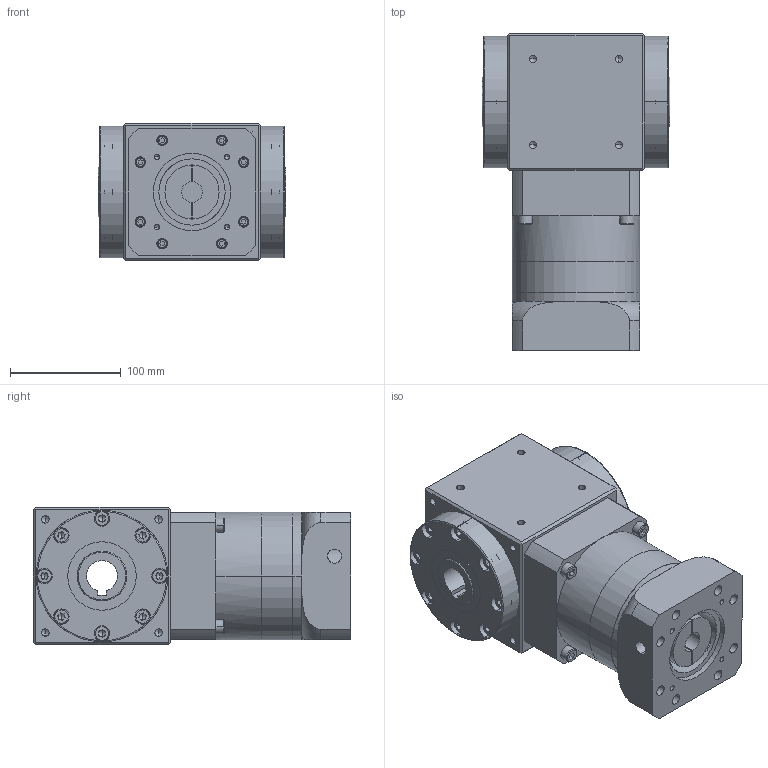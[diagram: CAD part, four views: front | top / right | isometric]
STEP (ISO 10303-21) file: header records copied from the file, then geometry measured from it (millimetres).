
FILE_DESCRIPTION (( 'STEP AP214' ), '1' );
FILE_NAME ('RAH120-L2-XX-H-19-70-90-M6_2019.STEP', '2019-03-27T08:07:13', ( 'Y' ), ( 'NCU' ), 'SwSTEP 2.0', 'SolidWorks 2016', '' );
FILE_SCHEMA (( 'AUTOMOTIVE_DESIGN' ));
Length unit declared in the file: millimetre
Products named in the file (1): RAH120-L2-XX-H-19-70-90-M6_2019
Bounding box: 170 x 286.8 x 124 mm (x, y, z)
Volume: 4071888.2 mm3; surface area: 309277.3 mm2
Topology: 3 solids, 27 shells, 843 faces, 1977 edges, 1210 vertices
Faces by surface type: plane 435, cylinder 260, cone 104, torus 44
Entity records: 27674 total; most frequent: CARTESIAN_POINT 7099, DIRECTION 4289, ORIENTED_EDGE 3794, EDGE_CURVE 1897, AXIS2_PLACEMENT_3D 1620, VERTEX_POINT 1210, VECTOR 1049, LINE 1049
